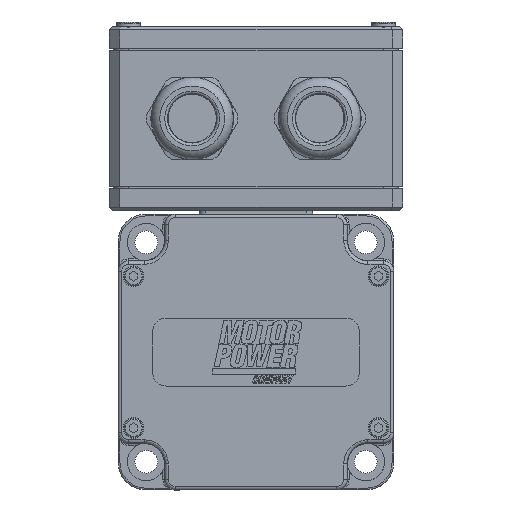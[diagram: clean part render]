
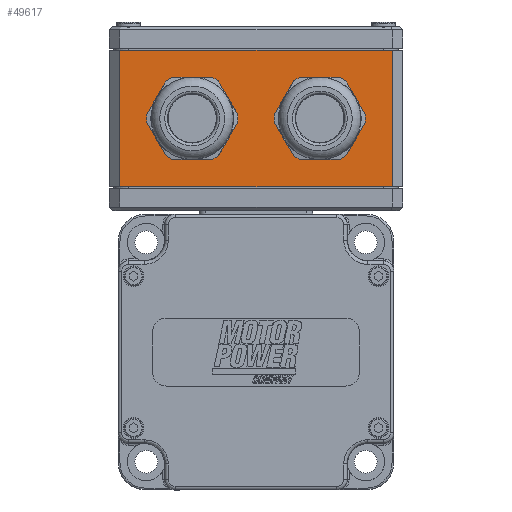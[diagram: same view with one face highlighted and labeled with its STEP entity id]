
A CAD part, front view. The second image highlights one B-rep face of the part: STEP entity #49617.
In plain terms, the highlighted planar face has unit normal (0, -1, 0) as drawn and (1, 0, 0) by its records, which use the part's own axes.
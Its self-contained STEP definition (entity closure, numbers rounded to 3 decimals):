
#13017=LINE('',#73290,#16209);
#13018=LINE('',#73293,#16210);
#13019=LINE('',#73295,#16211);
#13020=LINE('',#73297,#16212);
#16209=VECTOR('',#58756,1000.);
#16210=VECTOR('',#58757,1000.);
#16211=VECTOR('',#58758,1000.);
#16212=VECTOR('',#58759,1000.);
#23202=ORIENTED_EDGE('',*,*,#32513,.T.);
#23203=ORIENTED_EDGE('',*,*,#32514,.T.);
#23204=ORIENTED_EDGE('',*,*,#32515,.T.);
#23205=ORIENTED_EDGE('',*,*,#32516,.T.);
#23206=ORIENTED_EDGE('',*,*,#32517,.F.);
#23207=ORIENTED_EDGE('',*,*,#32518,.T.);
#32513=EDGE_CURVE('',#37502,#37502,#40413,.F.);
#32514=EDGE_CURVE('',#37503,#37503,#40414,.F.);
#32515=EDGE_CURVE('',#37504,#37505,#13017,.T.);
#32516=EDGE_CURVE('',#37505,#37506,#13018,.T.);
#32517=EDGE_CURVE('',#37507,#37506,#13019,.T.);
#32518=EDGE_CURVE('',#37507,#37504,#13020,.T.);
#37502=VERTEX_POINT('',#73287);
#37503=VERTEX_POINT('',#73289);
#37504=VERTEX_POINT('',#73291);
#37505=VERTEX_POINT('',#73292);
#37506=VERTEX_POINT('',#73294);
#37507=VERTEX_POINT('',#73296);
#40413=CIRCLE('',#52490,10.625);
#40414=CIRCLE('',#52491,10.625);
#42565=EDGE_LOOP('',(#23202));
#42566=EDGE_LOOP('',(#23203));
#42567=EDGE_LOOP('',(#23204,#23205,#23206,#23207));
#45568=FACE_BOUND('',#42565,.T.);
#45569=FACE_BOUND('',#42566,.T.);
#45570=FACE_BOUND('',#42567,.T.);
#47973=PLANE('',#52489);
#49617=ADVANCED_FACE('',(#45568,#45569,#45570),#47973,.F.);
#52489=AXIS2_PLACEMENT_3D('',#73285,#58750,#58751);
#52490=AXIS2_PLACEMENT_3D('',#73286,#58752,#58753);
#52491=AXIS2_PLACEMENT_3D('',#73288,#58754,#58755);
#58750=DIRECTION('',(-1.,0.,0.));
#58751=DIRECTION('',(0.,0.,1.));
#58752=DIRECTION('',(1.,0.,0.));
#58753=DIRECTION('',(0.,0.,-1.));
#58754=DIRECTION('',(1.,0.,0.));
#58755=DIRECTION('',(0.,0.,-1.));
#58756=DIRECTION('',(0.,1.,0.));
#58757=DIRECTION('',(0.,0.,1.));
#58758=DIRECTION('',(0.,1.,0.));
#58759=DIRECTION('',(0.,0.,-1.));
#73285=CARTESIAN_POINT('',(42.5,-42.5,39.5));
#73286=CARTESIAN_POINT('',(42.5,18.5,19.75));
#73287=CARTESIAN_POINT('',(42.5,18.5,9.125));
#73288=CARTESIAN_POINT('',(42.5,-18.5,19.75));
#73289=CARTESIAN_POINT('',(42.5,-18.5,9.125));
#73290=CARTESIAN_POINT('',(42.5,-42.5,0.));
#73291=CARTESIAN_POINT('',(42.5,-39.5,0.));
#73292=CARTESIAN_POINT('',(42.5,39.5,0.));
#73293=CARTESIAN_POINT('',(42.5,39.5,39.5));
#73294=CARTESIAN_POINT('',(42.5,39.5,39.5));
#73295=CARTESIAN_POINT('',(42.5,-42.5,39.5));
#73296=CARTESIAN_POINT('',(42.5,-39.5,39.5));
#73297=CARTESIAN_POINT('',(42.5,-39.5,39.5));
